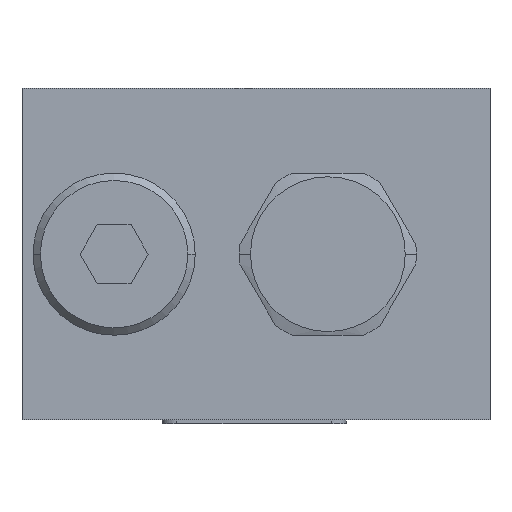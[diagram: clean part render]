
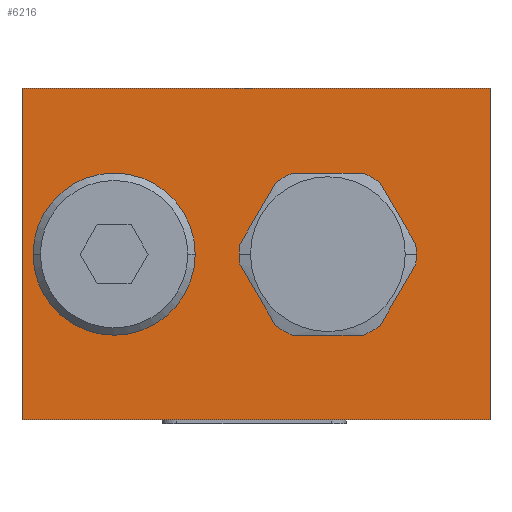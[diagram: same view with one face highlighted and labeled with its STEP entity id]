
A CAD part, left-side view. The second image highlights one B-rep face of the part: STEP entity #6216.
In plain terms, the highlighted planar face has unit normal (-1, 0, 0).
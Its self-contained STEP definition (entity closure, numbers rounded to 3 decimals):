
#5=DIRECTION('',(0.,1.,0.));
#6=VECTOR('',#5,63.5);
#7=CARTESIAN_POINT('',(0.,0.,0.));
#8=LINE('',#7,#6);
#21=DIRECTION('',(0.,0.,1.));
#22=VECTOR('',#21,45.);
#23=CARTESIAN_POINT('',(0.,0.,-45.));
#24=LINE('',#23,#22);
#221=DIRECTION('',(0.,1.,0.));
#222=VECTOR('',#221,63.5);
#223=CARTESIAN_POINT('',(0.,0.,-45.));
#224=LINE('',#223,#222);
#225=DIRECTION('',(0.,0.,1.));
#226=VECTOR('',#225,45.);
#227=CARTESIAN_POINT('',(0.,63.5,-45.));
#228=LINE('',#227,#226);
#229=CARTESIAN_POINT('',(0.,22.,-22.5));
#230=DIRECTION('',(-1.,0.,0.));
#231=DIRECTION('',(0.,-1.,0.));
#232=AXIS2_PLACEMENT_3D('',#229,#230,#231);
#234=CARTESIAN_POINT('',(0.,22.,-22.5));
#235=DIRECTION('',(-1.,0.,0.));
#236=DIRECTION('',(0.,1.,0.));
#237=AXIS2_PLACEMENT_3D('',#234,#235,#236);
#239=CARTESIAN_POINT('',(0.,51.,-22.5));
#240=DIRECTION('',(-1.,0.,0.));
#241=DIRECTION('',(0.,-1.,0.));
#242=AXIS2_PLACEMENT_3D('',#239,#240,#241);
#244=CARTESIAN_POINT('',(0.,51.,-22.5));
#245=DIRECTION('',(-1.,0.,0.));
#246=DIRECTION('',(0.,1.,0.));
#247=AXIS2_PLACEMENT_3D('',#244,#245,#246);
#4602=CARTESIAN_POINT('',(0.,0.,0.));
#4604=VERTEX_POINT('',#4602);
#4605=CARTESIAN_POINT('',(0.,63.5,0.));
#4606=VERTEX_POINT('',#4605);
#4611=CARTESIAN_POINT('',(0.,0.,-45.));
#4612=VERTEX_POINT('',#4611);
#4655=CARTESIAN_POINT('',(0.,63.5,-45.));
#4656=VERTEX_POINT('',#4655);
#4689=CARTESIAN_POINT('',(0.,11.5,-22.5));
#4690=CARTESIAN_POINT('',(0.,32.5,-22.5));
#4691=VERTEX_POINT('',#4689);
#4692=VERTEX_POINT('',#4690);
#4693=CARTESIAN_POINT('',(0.,40.,-22.5));
#4694=CARTESIAN_POINT('',(0.,62.,-22.5));
#4695=VERTEX_POINT('',#4693);
#4696=VERTEX_POINT('',#4694);
#6192=CARTESIAN_POINT('',(0.,63.5,0.));
#6193=DIRECTION('',(-1.,0.,0.));
#6194=DIRECTION('',(0.,-1.,0.));
#6195=AXIS2_PLACEMENT_3D('',#6192,#6193,#6194);
#6196=PLANE('',#6195);
#6197=ORIENTED_EDGE('',*,*,#6032,.F.);
#6198=ORIENTED_EDGE('',*,*,#6051,.F.);
#6200=ORIENTED_EDGE('',*,*,#6199,.T.);
#6201=ORIENTED_EDGE('',*,*,#6136,.T.);
#6202=EDGE_LOOP('',(#6197,#6198,#6200,#6201));
#6203=FACE_OUTER_BOUND('',#6202,.F.);
#6205=ORIENTED_EDGE('',*,*,#6204,.T.);
#6207=ORIENTED_EDGE('',*,*,#6206,.T.);
#6208=EDGE_LOOP('',(#6205,#6207));
#6209=FACE_BOUND('',#6208,.F.);
#6211=ORIENTED_EDGE('',*,*,#6210,.T.);
#6213=ORIENTED_EDGE('',*,*,#6212,.T.);
#6214=EDGE_LOOP('',(#6211,#6213));
#6215=FACE_BOUND('',#6214,.F.);
#233=CIRCLE('',#232,10.5);
#238=CIRCLE('',#237,10.5);
#243=CIRCLE('',#242,11.);
#248=CIRCLE('',#247,11.);
#6032=EDGE_CURVE('',#4604,#4606,#8,.T.);
#6051=EDGE_CURVE('',#4612,#4604,#24,.T.);
#6136=EDGE_CURVE('',#4656,#4606,#228,.T.);
#6199=EDGE_CURVE('',#4612,#4656,#224,.T.);
#6204=EDGE_CURVE('',#4691,#4692,#233,.T.);
#6206=EDGE_CURVE('',#4692,#4691,#238,.T.);
#6210=EDGE_CURVE('',#4695,#4696,#243,.T.);
#6212=EDGE_CURVE('',#4696,#4695,#248,.T.);
#6216=ADVANCED_FACE('',(#6203,#6209,#6215),#6196,.T.);
